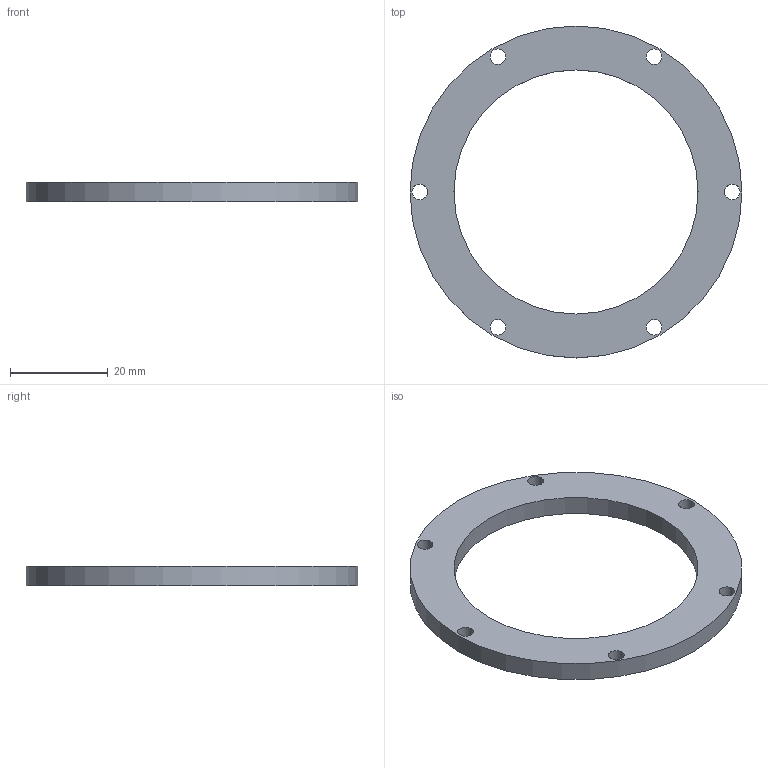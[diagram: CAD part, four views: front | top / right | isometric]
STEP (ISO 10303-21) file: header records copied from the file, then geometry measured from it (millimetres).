
FILE_DESCRIPTION(('Open CASCADE Model'),'2;1');
FILE_NAME('Open CASCADE Shape Model','2026-11-05T01:23:30',('Author'),( 'Open CASCADE'),'Open CASCADE STEP processor 7.8','Open CASCADE 7.8' ,'Unknown');
FILE_SCHEMA(('AUTOMOTIVE_DESIGN { 1 0 10303 214 1 1 1 1 }'));
Length unit declared in the file: millimetre
Products named in the file (1): Open CASCADE STEP translator 7.8 6
Bounding box: 68 x 68 x 4 mm (x, y, z)
Volume: 6479.7 mm3; surface area: 4964 mm2
Topology: 1 solids, 1 shells, 10 faces, 24 edges, 16 vertices
Faces by surface type: cylinder 8, plane 2
Full cylindrical faces by diameter (mm): 3.2 x6, 50 x1, 68 x1
Entity records: 660 total; most frequent: CARTESIAN_POINT 111, DIRECTION 108, ORIENTED_EDGE 48, PCURVE 48, DEFINITIONAL_REPRESENTATION 48, LINE 40, VECTOR 40, CIRCLE 30
